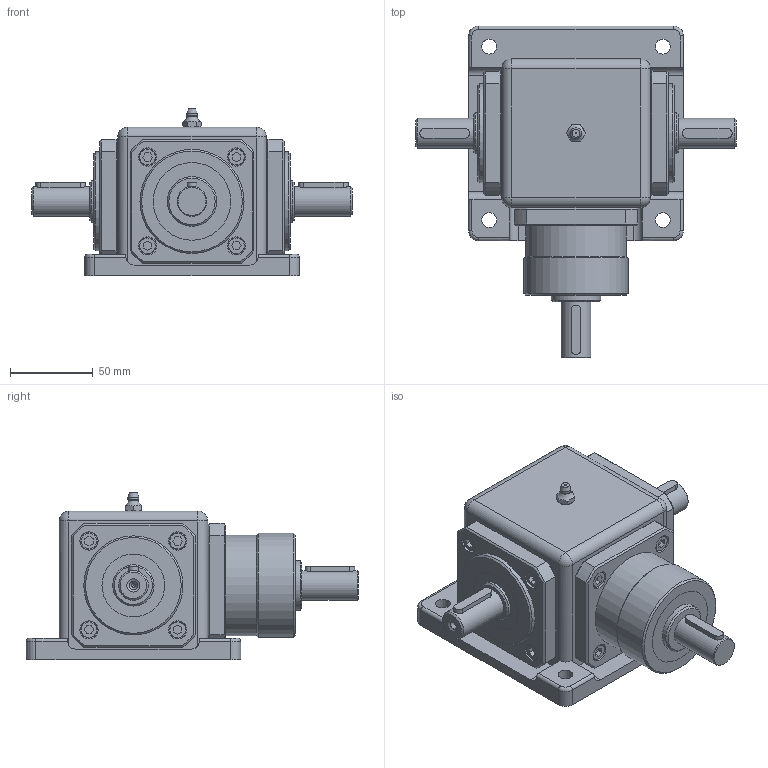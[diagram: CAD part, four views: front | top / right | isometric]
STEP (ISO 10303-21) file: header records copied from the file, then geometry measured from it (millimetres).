
FILE_DESCRIPTION(('STEP AP203'),'1');
FILE_NAME('SJMB25.stp','2022-07-27T10:15:30',(' '),(' '),'Spatial InterOp 3D',' ',' ');
FILE_SCHEMA(('CONFIG_CONTROL_DESIGN'));
Length unit declared in the file: millimetre
Products named in the file (36): SMB25(BEVEL GEAR BOX); Nipple(PT 1/8); SJMB25; SMB25(SHAFT); Key; SMB25(BEVEL GEAR BOX COVER); ASSEM1; M6 BoltAssembly; VT1M6x16; 파트220
Assembly tree (42 placements, depth 5):
  SJMB25
    SMB25(BEVEL GEAR BOX)
      SMB25(BEVEL GEAR BOX)
      Nipple(PT 1/8)
    SMB25(SHAFT)
      SMB25(SHAFT)
      Key  x2
      Key
    SMB25(SHAFT)
      SMB25(SHAFT)
      Key
      Key
    SMB25(BEVEL GEAR BOX COVER)
      ASSEM1
      M6 BoltAssembly
        M6 BoltAssembly  x4
          VT1M6x16
      (unnamed)
    SMB25(BEVEL GEAR BOX COVER)
      ASSEM1
      M6 BoltAssembly
        M6 BoltAssembly
          VT1M6x16
        M6 BoltAssembly
          VT1M6x16
        M6 BoltAssembly
          VT1M6x16
        M6 BoltAssembly
          VT1M6x16
      (unnamed)
    SMB25(BEVEL GEAR BOX COVER)
      SMB25(BEVEL GEAR BOX COVER)
      M6 BoltAssembly
        M6 BoltAssembly  x4
          VT1M6x16
      파트220
Bounding box: 194 x 201 x 101.4 mm (x, y, z)
Volume: 838383.4 mm3; surface area: 194594.8 mm2
Topology: 27 solids, 27 shells, 588 faces, 1257 edges, 780 vertices
Faces by surface type: plane 283, cylinder 164, cone 106, torus 30, sphere 5
Full cylindrical faces by diameter (mm): 1 x1, 2.5 x2, 6 x24, 6.6 x13, 8 x1, 9 x4, 10 x12, 11 x12, 18 x3, 25 x6, 28 x1, 30 x4, 37 x1, 38 x4, 47 x5, 48 x1, 60 x2, 61 x1, 62.2 x3, 63 x1, 65 x8
Entity records: 14748 total; most frequent: CARTESIAN_POINT 2822, DIRECTION 2238, ORIENTED_EDGE 1690, AXIS2_PLACEMENT_3D 949, EDGE_CURVE 845, EDGE_LOOP 772, VERTEX_POINT 635, FACE_OUTER_BOUND 609
